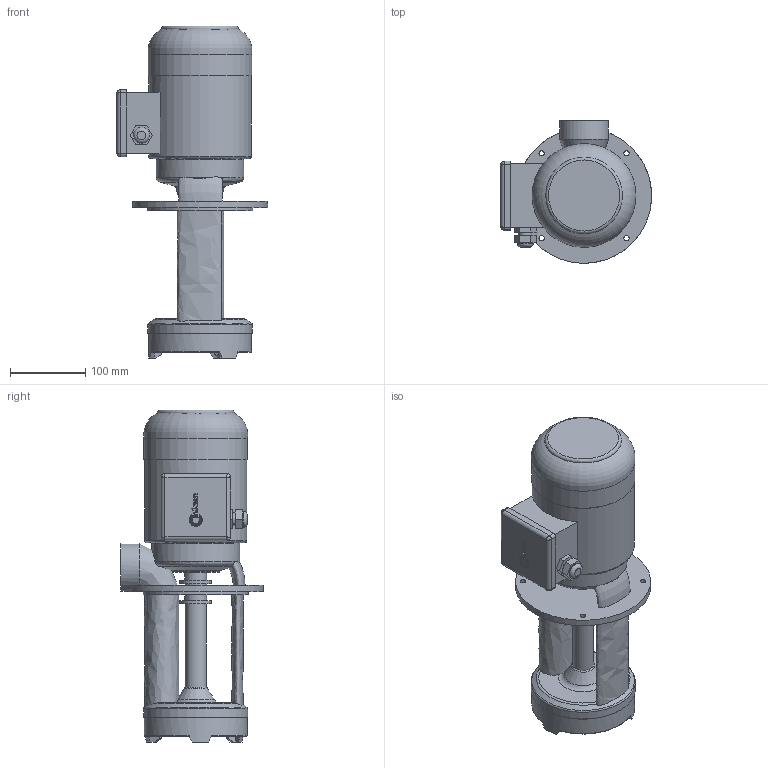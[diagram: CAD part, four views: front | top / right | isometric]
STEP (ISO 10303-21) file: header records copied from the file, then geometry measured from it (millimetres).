
FILE_DESCRIPTION(/* description */ ('Unknown'),/* implementation_level */ '2;1');
FILE_NAME(/* name */ 'EP 150-200',/* time_stamp */ '2023-03-02T14:54:47+03:00',/* author */ ('Unknown'),/* organization */ ('Unknown'),/* preprocessor_version */ 'ST-DEVELOPER v16.7',/* originating_system */ 'DEX',/* authorisation */ $);
FILE_SCHEMA (('AUTOMOTIVE_DESIGN {1 0 10303 214 3 1 1}'));
Length unit declared in the file: millimetre
Products named in the file (1): EP 150-200
Bounding box: 201.5 x 190 x 442.36 mm (x, y, z)
Volume: 4871143.4 mm3; surface area: 305957.7 mm2
Topology: 1 solids, 1 shells, 268 faces, 678 edges, 435 vertices
Faces by surface type: plane 91, bspline 81, cylinder 56, torus 26, cone 14
Full cylindrical faces by diameter (mm): 7 x4, 17 x1, 21.5 x1, 28 x1, 29 x3, 30 x1, 42 x2, 44 x1, 48 x1, 62 x1, 94 x1, 116.969 x1, 136.473 x1, 137 x1, 137.994 x1, 139 x1, 140 x1, 180 x1
Entity records: 11384 total; most frequent: CARTESIAN_POINT 5682, ORIENTED_EDGE 1212, DIRECTION 973, EDGE_CURVE 606, VERTEX_POINT 419, AXIS2_PLACEMENT_3D 372, EDGE_LOOP 363, FACE_BOUND 363
